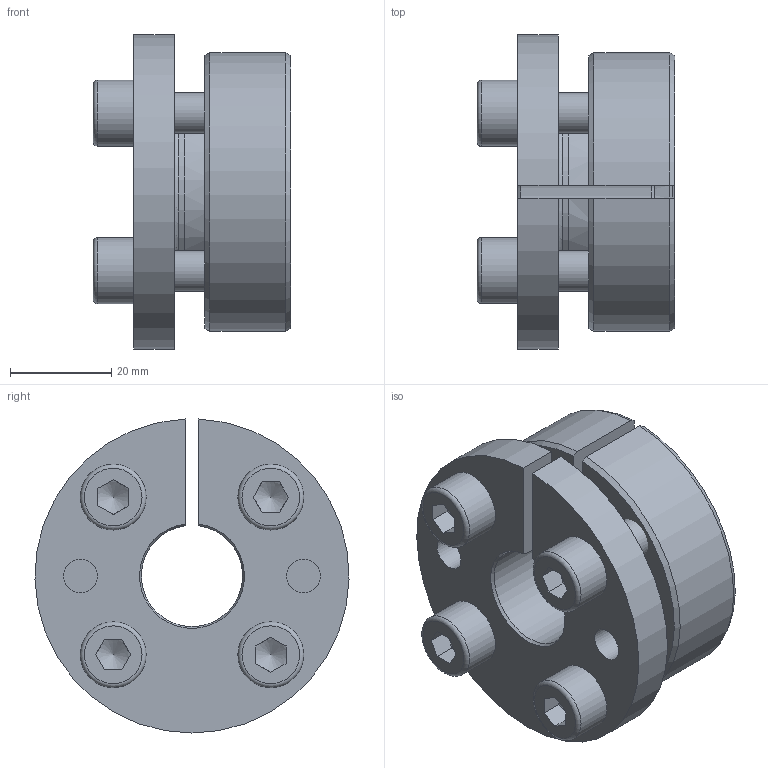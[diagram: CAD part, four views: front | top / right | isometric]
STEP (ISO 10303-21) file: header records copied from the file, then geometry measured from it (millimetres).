
FILE_DESCRIPTION(/* description */ ('RCK 15 20x55'),/* implementation_level */ '2;1');
FILE_NAME(/* name */ '06150020.stp',/* time_stamp */ '2023-02-10T14:04:40+01:00',/* author */ ('Paolo.Silvestro'),/* organization */ (''),/* preprocessor_version */ 'ST-DEVELOPER v19.2',/* originating_system */ 'Autodesk Inventor 2023',/* authorisation */ '');
FILE_SCHEMA (('CONFIG_CONTROL_DESIGN'));
Length unit declared in the file: millimetre
Products named in the file (4): 06150020; 06156020; 06155055; ISO 4762  - M8 x 25
Assembly tree (6 placements, depth 2):
  06150020
    06156020
    06155055
    ISO 4762  - M8 x 25  x4
Bounding box: 39 x 61.99 x 61.97 mm (x, y, z)
Volume: 60811.5 mm3; surface area: 25486.3 mm2
Topology: 6 solids, 6 shells, 92 faces, 240 edges, 160 vertices
Faces by surface type: plane 45, cylinder 23, cone 15, torus 9
Full cylindrical faces by diameter (mm): 6.647 x6, 8 x4, 9 x4, 13 x4
Entity records: 1822 total; most frequent: CARTESIAN_POINT 404, DIRECTION 280, ORIENTED_EDGE 262, EDGE_CURVE 131, AXIS2_PLACEMENT_3D 115, VERTEX_POINT 88, EDGE_LOOP 65, CIRCLE 58
